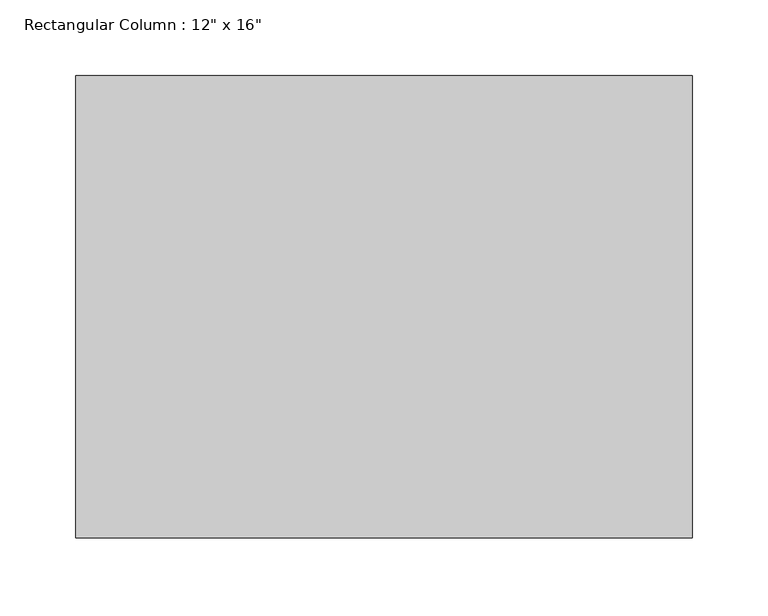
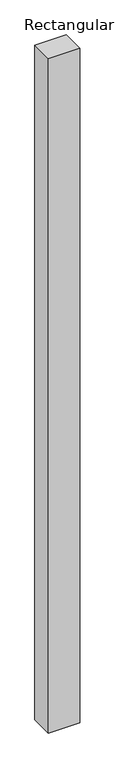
"""IFC4 building model written with IfcOpenShell, lengths in millimetres: column geometry."""

from ifc_helpers import new_model, si_unit, frame, origin, place, context, project, spatial, polyline, outline, extrude, source, transform, mapped, element, save


def column_746bd152(model_context):
    return source(origin(), model_context, "Body", "SweptSolid", [
        extrude(outline(polyline([(203.2, 152.4), (203.2, -152.4), (-203.2, -152.4), (-203.2, 152.4), (203.2, 152.4)])), frame((0.0, 0.0, -6007.1), z_axis=(0.0, 0.0, 1.0), x_axis=(1.0, 0.0, 0.0)), (0.0, 0.0, 1.0), 9232.9),
    ])


if __name__ == "__main__":
    model = new_model("IFC4")
    model_context = context("Model", 3, world=origin())
    ifc_project = project(units=[si_unit("LENGTHUNIT", "METRE", prefix="MILLI")], contexts=[model_context])
    site = spatial("IfcSite", under=ifc_project)
    building = spatial("IfcBuilding", under=site)
    placement = place(None, origin())
    column_shape = column_746bd152(model_context)
    element("IfcColumn", 1, ObjectType="Rectangular Column : 12\" x 16\"", at=placement, inside=building, context=model_context, shape_type="MappedRepresentation", body=[
        mapped(column_shape, transform((0.0, 0.0, 0.0), x_axis=(1.0, 0.0, 0.0), y_axis=(0.0, 1.0, 0.0), z_axis=(0.0, 0.0, 1.0))),
    ])
    save(model, "model.ifc")
